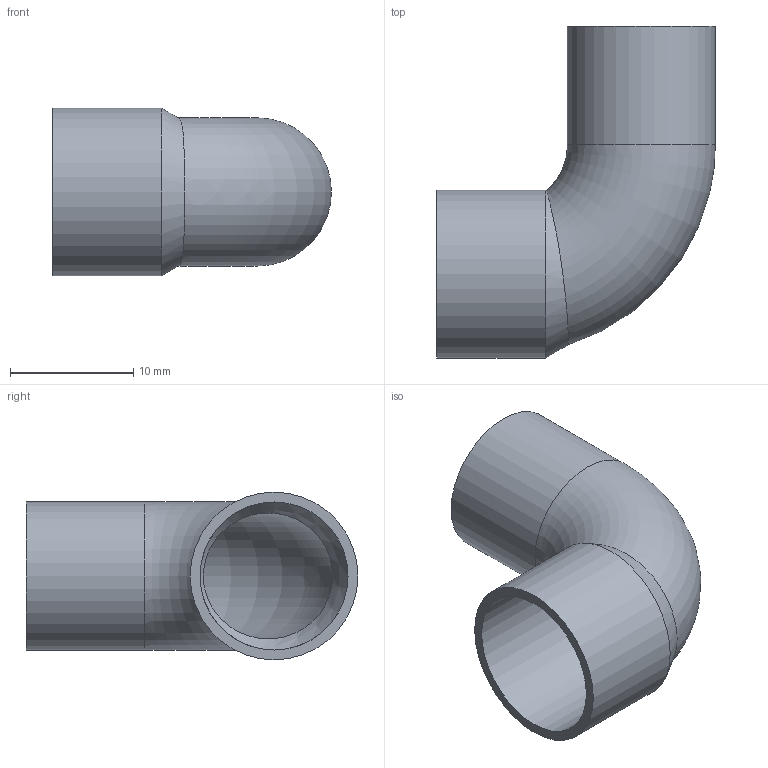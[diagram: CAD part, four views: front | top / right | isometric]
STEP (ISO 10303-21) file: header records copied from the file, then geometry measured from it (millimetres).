
FILE_DESCRIPTION((''),'2;1');
FILE_NAME('G:\SANHA-Ternat\Technik\Management\Bouwmaten + markeringen\z-maattekeningen 3D\5000\5092\1509212(0).stp','2018-02-20T09:45:17',('vdvijverd'),(''),'Autodesk Inventor 2009','Autodesk Inventor 2009','');
FILE_SCHEMA(('AUTOMOTIVE_DESIGN { 1 0 10303 214 1 1 1 1 }'));
Length unit declared in the file: millimetre
Products named in the file (1): 1509212(0)
Bounding box: 22.6 x 26.9 x 13.6 mm (x, y, z)
Volume: 1026.5 mm3; surface area: 2435.1 mm2
Topology: 1 solids, 1 shells, 10 faces, 22 edges, 14 vertices
Faces by surface type: cylinder 4, plane 2, cone 2, torus 2
Full cylindrical faces by diameter (mm): 10.2 x1, 12 x2, 13.6 x1
Entity records: 321 total; most frequent: CARTESIAN_POINT 119, DIRECTION 38, ORIENTED_EDGE 22, EDGE_LOOP 20, AXIS2_PLACEMENT_3D 19, VERTEX_POINT 11, EDGE_CURVE 11, FACE_OUTER_BOUND 10
